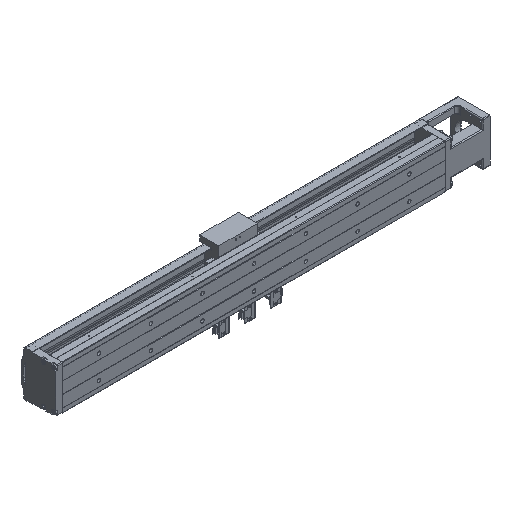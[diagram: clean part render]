
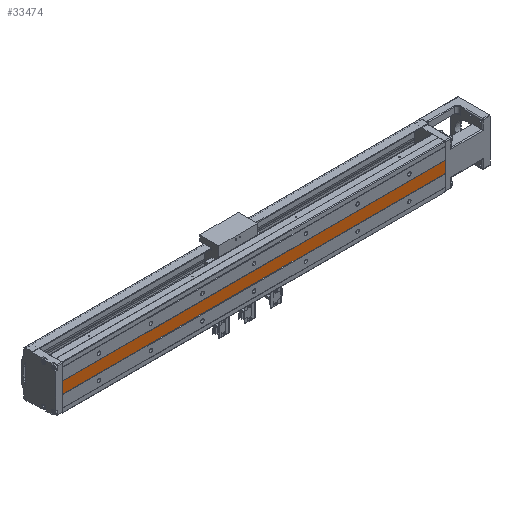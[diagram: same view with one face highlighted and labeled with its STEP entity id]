
A CAD part, isometric view. The second image highlights one B-rep face of the part: STEP entity #33474.
In plain terms, the highlighted planar face has unit normal (0, -1, 0).
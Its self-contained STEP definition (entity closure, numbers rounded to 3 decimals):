
#100 = CARTESIAN_POINT ( 'NONE',  ( 320., -31.5, 11. ) ) ;
#4928 = VECTOR ( 'NONE', #26285, 1000. ) ;
#6096 = DIRECTION ( 'NONE',  ( -1., 0., 0. ) ) ;
#6517 = CARTESIAN_POINT ( 'NONE',  ( -420., -31.5, -11. ) ) ;
#6597 = EDGE_LOOP ( 'NONE', ( #17975, #13039, #6986, #18323 ) ) ;
#6986 = ORIENTED_EDGE ( 'NONE', *, *, #25330, .F. ) ;
#9534 = VERTEX_POINT ( 'NONE', #14704 ) ;
#10838 = FACE_OUTER_BOUND ( 'NONE', #6597, .T. ) ;
#11347 = VECTOR ( 'NONE', #36935, 1000. ) ;
#12487 = EDGE_CURVE ( 'NONE', #35134, #9534, #38264, .T. ) ;
#13039 = ORIENTED_EDGE ( 'NONE', *, *, #12487, .T. ) ;
#14704 = CARTESIAN_POINT ( 'NONE',  ( 320., -31.5, -11. ) ) ;
#14879 = LINE ( 'NONE', #29549, #4928 ) ;
#16369 = DIRECTION ( 'NONE',  ( 0., -1., 0. ) ) ;
#16903 = EDGE_CURVE ( 'NONE', #31625, #36635, #17652, .T. ) ;
#17652 = LINE ( 'NONE', #33973, #11347 ) ;
#17975 = ORIENTED_EDGE ( 'NONE', *, *, #25885, .T. ) ;
#18323 = ORIENTED_EDGE ( 'NONE', *, *, #16903, .F. ) ;
#22861 = PLANE ( 'NONE',  #31924 ) ;
#23246 = LINE ( 'NONE', #26665, #39109 ) ;
#23258 = DIRECTION ( 'NONE',  ( 1., 0., 0. ) ) ;
#23466 = DIRECTION ( 'NONE',  ( 0., 0., -1. ) ) ;
#25330 = EDGE_CURVE ( 'NONE', #36635, #9534, #14879, .T. ) ;
#25885 = EDGE_CURVE ( 'NONE', #31625, #35134, #23246, .T. ) ;
#26201 = CARTESIAN_POINT ( 'NONE',  ( 320., -31.5, -11. ) ) ;
#26285 = DIRECTION ( 'NONE',  ( 0., 0., -1. ) ) ;
#26665 = CARTESIAN_POINT ( 'NONE',  ( -420., -31.5, -5.5 ) ) ;
#29549 = CARTESIAN_POINT ( 'NONE',  ( 320., -31.5, 11. ) ) ;
#31386 = VECTOR ( 'NONE', #23258, 1000. ) ;
#31625 = VERTEX_POINT ( 'NONE', #40022 ) ;
#31924 = AXIS2_PLACEMENT_3D ( 'NONE', #26201, #16369, #6096 ) ;
#33474 = ADVANCED_FACE ( 'NONE', ( #10838 ), #22861, .T. ) ;
#33973 = CARTESIAN_POINT ( 'NONE',  ( -420., -31.5, 11. ) ) ;
#35134 = VERTEX_POINT ( 'NONE', #6517 ) ;
#36635 = VERTEX_POINT ( 'NONE', #100 ) ;
#36935 = DIRECTION ( 'NONE',  ( 1., 0., 0. ) ) ;
#38264 = LINE ( 'NONE', #43371, #31386 ) ;
#39109 = VECTOR ( 'NONE', #23466, 1000. ) ;
#40022 = CARTESIAN_POINT ( 'NONE',  ( -420., -31.5, 11. ) ) ;
#43371 = CARTESIAN_POINT ( 'NONE',  ( -420., -31.5, -11. ) ) ;
